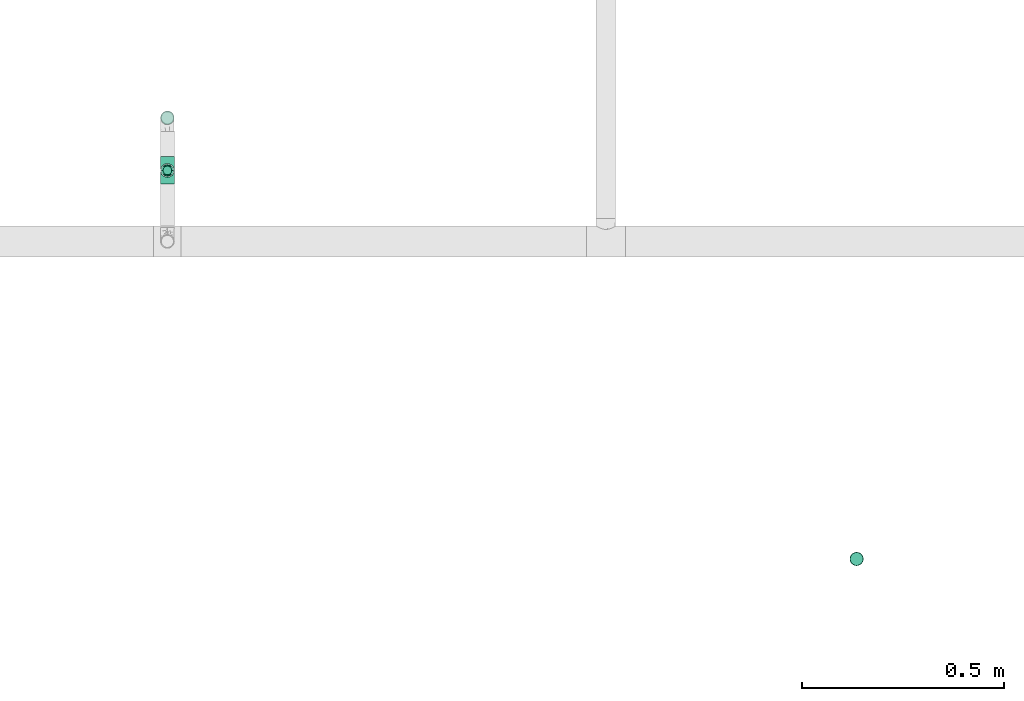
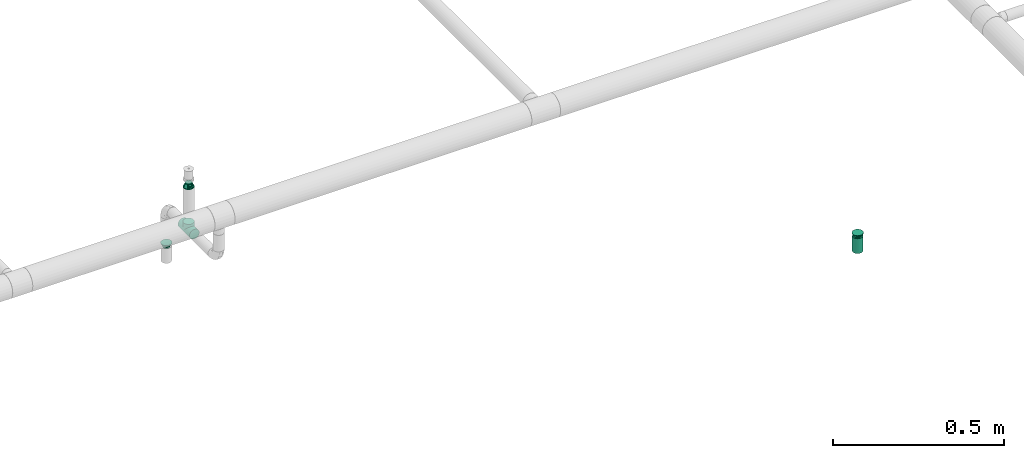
# One storey, part 85 of 157: 4 flow fittings, 1 flow terminal.
"""IFC2X3 building model written with IfcOpenShell, lengths in millimetres."""

from ifc_helpers import new_model, entity, si_unit, converted_unit, derived_unit, direction, frame, origin_with_axes, place, context, subcontext, project, spatial, open_shell, surface_model, source, transform, mapped, type_object, element, save


model = new_model("IFC2X3")

# Units and contexts
model_context = context("Model", 3, precision=0.01, world=frame((0.0, 4.29681676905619e-09, 0.0)), true_north=direction((4.01073788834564e-13, 1.0)))
plan_context = context("Plan", 3, precision=0.01, world=frame((0.0, 4.29681676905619e-09, 0.0)), true_north=direction((4.01073788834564e-13, 1.0)))
body_context = subcontext(model_context, "Body", "Model", "MODEL_VIEW")
ifc_project = project(units=[converted_unit("PLANEANGLEUNIT", "DEGREE", entity("IfcPositiveLengthMeasure", 0.0174532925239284), si_unit("PLANEANGLEUNIT", "RADIAN"), dimensions=[0, 0, 0, 0, 0, 0, 0]), si_unit("AREAUNIT", "SQUARE_METRE"), si_unit("LENGTHUNIT", "METRE", prefix="MILLI"), si_unit("MASSUNIT", "GRAM", prefix="KILO"), si_unit("POWERUNIT", "WATT"), si_unit("PRESSUREUNIT", "PASCAL"), si_unit("FORCEUNIT", "NEWTON", prefix="KILO"), si_unit("ELECTRICCURRENTUNIT", "AMPERE"), si_unit("THERMODYNAMICTEMPERATUREUNIT", "DEGREE_CELSIUS"), si_unit("TIMEUNIT", "SECOND"), si_unit("VOLUMEUNIT", "CUBIC_METRE"), derived_unit("LINEARVELOCITYUNIT", [(si_unit("LENGTHUNIT", "METRE"), 1), (si_unit("TIMEUNIT", "SECOND"), -1)]), derived_unit("VOLUMETRICFLOWRATEUNIT", [(si_unit("VOLUMEUNIT", "CUBIC_METRE"), 1), (si_unit("TIMEUNIT", "SECOND"), -1)]), derived_unit("THERMALTRANSMITTANCEUNIT", [(si_unit("POWERUNIT", "WATT"), 1), (si_unit("THERMODYNAMICTEMPERATUREUNIT", "KELVIN"), -1), (si_unit("AREAUNIT", "SQUARE_METRE"), -1)])], contexts=[model_context, plan_context])

# Site, building, storey
site_placement = place(None, frame((0.0, -4.29681676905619e-09, 0.0), z_axis=(0.0, 0.0, 1.0), x_axis=(1.0, 0.0, 0.0)))
site = spatial("IfcSite", under=ifc_project, at=site_placement, CompositionType="ELEMENT")
building_placement = place(site_placement, frame((0.0, 4.29681676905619e-09, 0.0), z_axis=(0.0, 0.0, 1.0), x_axis=(1.0, 0.0, 0.0)))
building = spatial("IfcBuilding", under=site, at=building_placement, Name="mc-building", CompositionType="ELEMENT")
storey_placement = place(building_placement, frame((0.0, 0.0, 204000.0), z_axis=(0.0, 0.0, 1.0), x_axis=(1.0, 0.0, 0.0)))
storey = spatial("IfcBuildingStorey", under=building, at=storey_placement, Name="Nivå D", CompositionType="ELEMENT", Elevation=204000.0)

# Flow fittings
pipe_fitting_type_1 = type_object("IfcPipeFittingType", Name="magi_pipe_fe_tee_centric_90_NOR", PredefinedType="JUNCTION")
shared_shape_1 = source(origin_with_axes(), body_context, "Body", "SurfaceModel", [
    surface_model("IfcShellBasedSurfaceModel", [(-33.8, 4.37404, -16.32415), (-33.8, 0.0, -16.9), (-33.8, 16.32415, -4.37404), (-33.8, 8.45, -14.63583), (-33.8, 11.9501, -11.9501), (-33.8, 14.63583, -8.45), (-33.8, -16.9, 0.0), (-33.8, -11.9501, -11.9501), (-33.8, -14.63583, -8.45), (-33.8, -8.45, -14.63583), (-33.8, -4.37404, -16.32415), (-33.8, -16.32415, -4.37404), (-33.8, 14.63583, 8.45), (-33.8, 16.32415, 4.37404), (-33.8, -8.45, 14.63583), (-33.8, 8.45, 14.63583), (-33.8, 11.9501, 11.9501), (-33.8, 4.37404, 16.32415), (-33.8, 0.0, 16.9), (-33.8, -11.9501, 11.9501), (-33.8, -14.63583, 8.45), (-33.8, -16.32415, 4.37404), (-33.8, -4.37404, 16.32415), (-33.8, 16.9, 0.0), (33.8, 4.37404, -16.32415), (33.8, -16.9, 0.0), (33.8, 0.0, -16.9), (33.8, 14.63583, -8.45), (33.8, 8.45, -14.63583), (33.8, 16.32415, -4.37404), (33.8, 11.9501, -11.9501), (33.8, -16.32415, 4.37404), (33.8, -8.45, -14.63583), (33.8, -4.37404, -16.32415), (33.8, -11.9501, -11.9501), (33.8, -14.63583, -8.45), (33.8, -16.32415, -4.37404), (33.8, 16.32415, 4.37404), (33.8, 8.45, 14.63583), (33.8, 14.63583, 8.45), (33.8, 11.9501, 11.9501), (33.8, -8.45, 14.63583), (33.8, 4.37404, 16.32415), (33.8, -14.63583, 8.45), (33.8, -11.9501, 11.9501), (33.8, 0.0, 16.9), (33.8, -4.37404, 16.32415), (33.8, 16.9, 0.0), (16.28698, -16.28698, 4.51047), (16.9, -16.9, 0.0), (14.62704, -14.62704, 8.4652), (9.47213, -9.47213, 13.99602), (12.26343, -12.26343, 11.62834), (-16.9, -16.9, 0.0), (-16.28698, -16.28698, 4.51047), (-14.62704, -14.62704, 8.4652), (-12.26343, -12.26343, 11.62834), (-9.47213, -9.47213, 13.99602), (-6.42894, -6.42894, 15.62942), (6.42894, -6.42894, 15.62942), (3.24522, -3.24522, 16.58549), (0.0, 0.0, 16.9), (-3.24522, -3.24522, 16.58549), (3.24522, -3.24522, -16.58549), (0.0, 0.0, -16.9), (-3.24522, -3.24522, -16.58549), (-6.42894, -6.42894, -15.62942), (6.42894, -6.42894, -15.62942), (9.47213, -9.47213, -13.99602), (12.26343, -12.26343, -11.62834), (14.62704, -14.62704, -8.4652), (16.28698, -16.28698, -4.51047), (-9.47213, -9.47213, -13.99602), (-12.26343, -12.26343, -11.62834), (-16.28698, -16.28698, -4.51047), (-14.62704, -14.62704, -8.4652), (4.37404, -25.35, -16.32415), (-16.9, -25.35, 0.0), (0.0, -25.35, -16.9), (14.63583, -25.35, -8.45), (8.45, -25.35, -14.63583), (16.32415, -25.35, -4.37404), (11.9501, -25.35, -11.9501), (-11.9501, -25.35, -11.9501), (-8.45, -25.35, -14.63583), (-4.37404, -25.35, -16.32415), (-14.63583, -25.35, -8.45), (-16.32415, -25.35, -4.37404), (16.9, -25.35, 0.0), (8.45, -25.35, 14.63583), (16.32415, -25.35, 4.37404), (14.63583, -25.35, 8.45), (-8.45, -25.35, 14.63583), (11.9501, -25.35, 11.9501), (4.37404, -25.35, 16.32415), (-16.32415, -25.35, 4.37404), (-11.9501, -25.35, 11.9501), (-14.63583, -25.35, 8.45), (0.0, -25.35, 16.9), (-4.37404, -25.35, 16.32415)], [open_shell([[[0, 1, 2]], [[3, 0, 4]], [[0, 2, 5]], [[4, 0, 5]], [[6, 2, 1]], [[7, 8, 9]], [[1, 10, 9]], [[11, 6, 8]], [[1, 9, 8]], [[1, 8, 6]], [[6, 12, 2]], [[12, 13, 2]], [[14, 12, 6]], [[12, 14, 15]], [[16, 12, 15]], [[17, 15, 18]], [[19, 14, 20]], [[21, 20, 14]], [[22, 18, 14]], [[14, 6, 21]], [[14, 18, 15]], [[23, 2, 13]], [[24, 25, 26]], [[27, 24, 28]], [[27, 29, 24]], [[27, 28, 30]], [[31, 25, 24]], [[26, 32, 33]], [[26, 34, 32]], [[35, 25, 36]], [[35, 34, 26]], [[25, 35, 26]], [[24, 29, 31]], [[29, 37, 38]], [[38, 37, 39]], [[38, 31, 29]], [[38, 39, 40]], [[41, 38, 42]], [[43, 41, 44]], [[41, 43, 31]], [[41, 45, 46]], [[41, 31, 38]], [[42, 45, 41]], [[29, 47, 37]], [[31, 43, 48]], [[25, 31, 49]], [[49, 31, 48]], [[43, 50, 48]], [[44, 41, 51]], [[50, 43, 52]], [[51, 52, 44]], [[52, 43, 44]], [[53, 54, 21]], [[53, 21, 6]], [[21, 54, 20]], [[54, 55, 20]], [[56, 57, 19]], [[19, 20, 56]], [[19, 57, 14]], [[56, 20, 55]], [[14, 57, 58]], [[51, 41, 59]], [[60, 45, 61]], [[59, 46, 60]], [[46, 59, 41]], [[60, 46, 45]], [[61, 45, 42]], [[39, 37, 13]], [[16, 38, 40]], [[12, 40, 39]], [[42, 38, 15]], [[23, 37, 47]], [[62, 61, 18]], [[62, 22, 58]], [[22, 62, 18]], [[58, 22, 14]], [[61, 17, 18]], [[42, 17, 61]], [[15, 17, 42]], [[15, 38, 16]], [[12, 16, 40]], [[13, 12, 39]], [[37, 23, 13]], [[5, 27, 30]], [[23, 47, 29]], [[30, 28, 3]], [[27, 2, 29]], [[26, 33, 63]], [[26, 64, 24]], [[64, 26, 63]], [[28, 24, 0]], [[64, 0, 24]], [[4, 30, 3]], [[2, 27, 5]], [[5, 30, 4]], [[2, 23, 29]], [[65, 66, 10]], [[1, 0, 64]], [[1, 65, 10]], [[66, 9, 10]], [[0, 3, 28]], [[1, 64, 65]], [[63, 33, 67]], [[32, 34, 68]], [[69, 68, 34]], [[35, 70, 69]], [[69, 34, 35]], [[32, 68, 67]], [[36, 25, 49]], [[36, 71, 35]], [[71, 36, 49]], [[35, 71, 70]], [[72, 9, 66]], [[72, 7, 9]], [[7, 72, 73]], [[7, 73, 8]], [[74, 53, 11]], [[75, 74, 8]], [[74, 11, 8]], [[11, 53, 6]], [[75, 8, 73]], [[32, 67, 33]], [[76, 77, 78]], [[79, 76, 80]], [[79, 81, 76]], [[79, 80, 82]], [[77, 76, 81]], [[78, 83, 84]], [[84, 85, 78]], [[86, 77, 87]], [[83, 78, 86]], [[77, 86, 78]], [[81, 88, 77]], [[89, 88, 90]], [[89, 90, 91]], [[92, 77, 89]], [[89, 91, 93]], [[92, 89, 94]], [[95, 96, 97]], [[96, 95, 92]], [[92, 98, 99]], [[95, 77, 92]], [[94, 98, 92]], [[89, 77, 88]], [[77, 95, 53]], [[54, 53, 95]], [[97, 96, 56]], [[96, 92, 57]], [[95, 97, 54]], [[58, 92, 99]], [[55, 54, 97]], [[56, 55, 97]], [[58, 57, 92]], [[98, 61, 62]], [[58, 99, 62]], [[56, 96, 57]], [[62, 99, 98]], [[94, 60, 98]], [[89, 59, 94]], [[91, 90, 48]], [[52, 93, 91]], [[93, 51, 89]], [[49, 90, 88]], [[59, 60, 94]], [[51, 59, 89]], [[49, 48, 90]], [[50, 52, 91]], [[48, 50, 91]], [[51, 93, 52]], [[98, 60, 61]], [[88, 81, 49]], [[71, 49, 81]], [[79, 82, 69]], [[82, 80, 68]], [[81, 79, 71]], [[67, 80, 76]], [[70, 71, 79]], [[69, 70, 79]], [[67, 68, 80]], [[78, 64, 63]], [[67, 76, 63]], [[69, 82, 68]], [[63, 76, 78]], [[85, 65, 78]], [[84, 66, 85]], [[86, 87, 74]], [[86, 73, 83]], [[72, 84, 83]], [[53, 87, 77]], [[66, 65, 85]], [[72, 66, 84]], [[53, 74, 87]], [[75, 73, 86]], [[74, 75, 86]], [[72, 83, 73]], [[78, 65, 64]]])]),
])
flow_fitting_placement = place(storey_placement, frame((521500.0, 416470.0, 2540.0), z_axis=(-1.0, 0.0, 0.0), x_axis=(0.0, 1.0, 0.0)))
element("IfcFlowFitting", 1, at=flow_fitting_placement, inside=storey, type_object=pipe_fitting_type_1, Name="magi_pipe_fe_tee_centric_90_NOR", context=body_context, shape_type="MappedRepresentation", body=[
    mapped(shared_shape_1, transform((0.0, 0.0, 0.0), scale=1.0)),
])
pipe_fitting_type_2 = type_object("IfcPipeFittingType", Name="magi_pipe_fe_reducer_centric_short_NOR", PredefinedType="TRANSITION")
shared_shape_2 = source(origin_with_axes(), body_context, "Body", "SurfaceModel", [
    surface_model("IfcShellBasedSurfaceModel", [(-2.0, -7.56604, -7.56604), (-2.0, -10.33541, -2.76936), (-2.0, -5.35, -9.26647), (-2.0, 5.35, -9.26647), (-2.0, 10.33541, -2.76936), (-2.0, 7.56604, -7.56604), (12.4, 11.9501, 11.9501), (12.4, 0.0, 16.9), (12.4, 11.9501, -11.9501), (12.4, 16.9, 0.0), (0.0, -10.7, 0.0), (0.0, -5.35, 9.26647), (0.0, -5.35, -9.26647), (0.0, 10.7, 0.0), (12.4, 15.66253, -2.98753), (12.4, 8.96258, -13.18758), (0.0, 6.6875, -6.94985), (12.4, -15.66253, -2.98753), (12.4, -16.9, 0.0), (12.4, 5.97505, -14.42505), (0.0, 5.35, -9.26647), (12.4, 14.42505, -5.97505), (0.0, 8.025, -4.63324), (0.0, 9.3625, -2.31662), (0.0, -9.3625, -2.31662), (0.0, -8.025, -4.63324), (12.4, -14.42505, -5.97505), (12.4, 13.18758, -8.96258), (12.4, -13.18758, -8.96258), (12.4, -11.9501, -11.9501), (0.0, -6.6875, -6.94985), (12.4, -8.96258, -13.18758), (12.4, -5.97505, -14.42505), (12.4, -15.66253, 2.98753), (12.4, -8.96258, 13.18758), (0.0, -6.6875, 6.94985), (12.4, -11.9501, 11.9501), (12.4, 15.66253, 2.98753), (12.4, -5.97505, 14.42505), (12.4, -14.42505, 5.97505), (0.0, -8.025, 4.63324), (0.0, -9.3625, 2.31662), (0.0, 9.3625, 2.31662), (0.0, 8.025, 4.63324), (12.4, 14.42505, 5.97505), (12.4, -13.18758, 8.96258), (12.4, 13.18758, 8.96258), (0.0, 6.6875, 6.94985), (12.4, 8.96258, 13.18758), (0.0, 5.35, 9.26647), (12.4, 5.97505, 14.42505), (14.4, 4.37404, -16.32415), (14.4, 8.45, -14.63583), (14.4, 11.9501, -11.9501), (14.4, -8.45, -14.63583), (14.4, 16.32415, -4.37404), (14.4, 16.32415, 4.37404), (14.4, 14.63583, -8.45), (14.4, 0.0, -16.9), (14.4, -4.37404, -16.32415), (14.4, -11.9501, -11.9501), (14.4, -16.32415, -4.37404), (14.4, -14.63583, -8.45), (14.4, -16.32415, 4.37404), (14.4, 16.9, 0.0), (14.4, 14.63583, 8.45), (14.4, 11.9501, 11.9501), (14.4, 4.37404, 16.32415), (14.4, 8.45, 14.63583), (14.4, 0.0, 16.9), (14.4, -14.63583, 8.45), (14.4, -16.9, 0.0), (14.4, -8.45, 14.63583), (14.4, -11.9501, 11.9501), (14.4, -4.37404, 16.32415), (12.4, 4.37404, 16.32415), (12.4, -14.63583, 8.45), (12.4, 16.32415, 4.37404), (12.4, 8.45, 14.63583), (12.4, 14.63583, 8.45), (12.4, -8.45, 14.63583), (12.4, -4.37404, 16.32415), (12.4, -16.32415, 4.37404), (12.4, -16.32415, -4.37404), (12.4, -8.45, -14.63583), (12.4, 16.32415, -4.37404), (12.4, 14.63583, -8.45), (12.4, 8.45, -14.63583), (12.4, 4.37404, -16.32415), (12.4, 0.0, -16.9), (12.4, -14.63583, -8.45), (12.4, -4.37404, -16.32415), (-2.0, 2.76936, 10.33541), (-2.0, 0.0, 10.7), (-2.0, 5.35, 9.26647), (-2.0, 7.56604, 7.56604), (-2.0, 9.26647, 5.35), (-2.0, 10.33541, 2.76936), (-2.0, -10.33541, 2.76936), (-2.0, -2.76936, 10.33541), (-2.0, -7.56604, 7.56604), (-2.0, -5.35, 9.26647), (-2.0, -9.26647, 5.35), (-2.0, -10.7, 0.0), (-2.0, 9.26647, -5.35), (-2.0, 2.76936, -10.33541), (-2.0, -9.26647, -5.35), (-2.0, 0.0, -10.7), (-2.0, -2.76936, -10.33541), (-2.0, 10.7, 0.0), (0.0, 0.0, -10.7), (0.0, 2.76936, -10.33541), (0.0, 10.33541, -2.76936), (0.0, 7.56604, -7.56604), (0.0, -10.33541, -2.76936), (0.0, 9.26647, -5.35), (0.0, 0.0, 10.7), (0.0, -2.76936, -10.33541), (0.0, -7.56604, -7.56604), (0.0, -9.26647, -5.35), (0.0, 10.33541, 2.76936), (0.0, 9.26647, 5.35), (0.0, 7.56604, 7.56604), (0.0, 2.76936, 10.33541), (0.0, -7.56604, 7.56604), (0.0, -10.33541, 2.76936), (0.0, -9.26647, 5.35), (0.0, -2.76936, 10.33541), (0.0, 2.675, -9.26647), (0.0, -2.675, -9.26647), (12.4, 2.98753, -15.66253), (0.0, 0.0, -9.26647), (12.4, -2.98753, -15.66253), (0.0, -2.675, 9.26647), (0.0, 2.675, 9.26647), (12.4, -2.98753, 15.66253), (0.0, 0.0, 9.26647), (12.4, 2.98753, 15.66253)], [open_shell([[[0, 1, 2]], [[3, 4, 5]], [[6, 7, 8]], [[8, 9, 6]], [[10, 11, 12]], [[13, 9, 14]], [[15, 16, 8]], [[17, 18, 10]], [[15, 19, 20]], [[21, 22, 23]], [[24, 25, 26]], [[22, 21, 27]], [[28, 26, 25]], [[29, 30, 31]], [[12, 32, 31]], [[10, 18, 33]], [[34, 35, 36]], [[37, 9, 13]], [[34, 38, 11]], [[39, 40, 41]], [[42, 43, 44]], [[40, 39, 45]], [[46, 44, 43]], [[6, 47, 48]], [[49, 50, 48]], [[51, 52, 53]], [[54, 51, 53]], [[53, 55, 56]], [[55, 53, 57]], [[53, 56, 54]], [[58, 54, 59]], [[58, 51, 54]], [[60, 61, 62]], [[61, 60, 54]], [[54, 63, 61]], [[56, 55, 64]], [[56, 65, 66]], [[56, 66, 67]], [[67, 63, 54]], [[67, 66, 68]], [[63, 67, 69]], [[69, 70, 63]], [[71, 61, 63]], [[70, 72, 73]], [[70, 69, 72]], [[72, 69, 74]], [[54, 56, 67]], [[75, 76, 7]], [[77, 75, 78]], [[6, 79, 77]], [[6, 77, 78]], [[76, 75, 77]], [[80, 76, 36]], [[80, 81, 7]], [[7, 76, 80]], [[82, 76, 77]], [[82, 83, 18]], [[82, 77, 84]], [[77, 85, 8]], [[8, 85, 86]], [[8, 87, 88]], [[84, 77, 8]], [[88, 89, 8]], [[83, 29, 90]], [[29, 83, 84]], [[84, 89, 91]], [[83, 82, 84]], [[8, 89, 84]], [[85, 77, 9]], [[83, 61, 18]], [[90, 62, 83]], [[54, 29, 84]], [[90, 29, 60]], [[59, 84, 91]], [[83, 62, 61]], [[61, 71, 18]], [[59, 54, 84]], [[60, 29, 54]], [[60, 62, 90]], [[58, 59, 91]], [[91, 89, 58]], [[88, 51, 89]], [[87, 52, 88]], [[57, 8, 86]], [[87, 8, 53]], [[55, 86, 85]], [[87, 53, 52]], [[52, 51, 88]], [[64, 55, 85]], [[57, 86, 55]], [[57, 53, 8]], [[9, 64, 85]], [[89, 51, 58]], [[77, 56, 9]], [[79, 65, 77]], [[68, 6, 78]], [[79, 6, 66]], [[67, 78, 75]], [[77, 65, 56]], [[56, 64, 9]], [[67, 68, 78]], [[66, 6, 68]], [[66, 65, 79]], [[69, 67, 75]], [[75, 7, 69]], [[81, 74, 7]], [[80, 72, 81]], [[70, 36, 76]], [[80, 36, 73]], [[63, 76, 82]], [[80, 73, 72]], [[72, 74, 81]], [[71, 63, 82]], [[70, 76, 63]], [[70, 73, 36]], [[18, 71, 82]], [[7, 74, 69]], [[92, 1, 93]], [[94, 1, 92]], [[95, 96, 97]], [[95, 97, 94]], [[98, 93, 1]], [[99, 100, 101]], [[99, 93, 100]], [[100, 98, 102]], [[93, 98, 100]], [[98, 1, 103]], [[94, 97, 1]], [[1, 97, 4]], [[5, 4, 104]], [[4, 3, 1]], [[105, 1, 3]], [[1, 0, 106]], [[2, 107, 108]], [[2, 1, 105]], [[105, 107, 2]], [[4, 97, 109]], [[20, 110, 111]], [[112, 20, 113]], [[114, 20, 112]], [[112, 113, 115]], [[116, 114, 112]], [[110, 12, 117]], [[110, 20, 12]], [[118, 114, 119]], [[114, 118, 12]], [[20, 114, 12]], [[112, 13, 120]], [[120, 121, 122]], [[120, 122, 123]], [[116, 112, 123]], [[123, 122, 49]], [[116, 124, 114]], [[125, 124, 126]], [[10, 114, 125]], [[124, 127, 11]], [[125, 114, 124]], [[127, 124, 116]], [[123, 112, 120]], [[1, 114, 103]], [[106, 119, 1]], [[12, 0, 2]], [[106, 0, 118]], [[117, 2, 108]], [[1, 119, 114]], [[114, 10, 103]], [[117, 12, 2]], [[118, 0, 12]], [[118, 119, 106]], [[110, 117, 108]], [[108, 107, 110]], [[105, 111, 107]], [[3, 20, 105]], [[115, 5, 104]], [[3, 5, 113]], [[112, 104, 4]], [[3, 113, 20]], [[20, 111, 105]], [[13, 112, 4]], [[115, 104, 112]], [[115, 113, 5]], [[109, 13, 4]], [[107, 111, 110]], [[97, 120, 109]], [[96, 121, 97]], [[49, 95, 94]], [[96, 95, 122]], [[123, 94, 92]], [[97, 121, 120]], [[120, 13, 109]], [[123, 49, 94]], [[122, 95, 49]], [[122, 121, 96]], [[116, 123, 92]], [[92, 93, 116]], [[99, 127, 93]], [[101, 11, 99]], [[126, 100, 102]], [[101, 100, 124]], [[125, 102, 98]], [[101, 124, 11]], [[11, 127, 99]], [[10, 125, 98]], [[126, 102, 125]], [[126, 124, 100]], [[103, 10, 98]], [[93, 127, 116]], [[18, 7, 36]], [[18, 29, 8]], [[89, 8, 29]], [[18, 8, 7]], [[13, 11, 49]], [[13, 20, 12]], [[13, 12, 11]], [[24, 26, 17]], [[10, 24, 17]], [[16, 15, 20]], [[30, 12, 31]], [[23, 14, 21]], [[19, 128, 20]], [[27, 8, 16]], [[32, 12, 129]], [[30, 28, 25]], [[130, 131, 128]], [[129, 132, 32]], [[16, 22, 27]], [[13, 14, 23]], [[128, 19, 130]], [[130, 89, 131]], [[131, 132, 129]], [[89, 132, 131]], [[28, 30, 29]], [[42, 44, 37]], [[13, 42, 37]], [[35, 34, 11]], [[47, 49, 48]], [[41, 33, 39]], [[38, 133, 11]], [[45, 36, 35]], [[50, 49, 134]], [[47, 46, 43]], [[135, 136, 133]], [[134, 137, 50]], [[35, 40, 45]], [[10, 33, 41]], [[133, 38, 135]], [[135, 7, 136]], [[136, 137, 134]], [[7, 137, 136]], [[46, 47, 6]]])]),
])
for number, where, z_axis, x_axis, name in (
    (2, (521500.0, 416600.0, 2396.95199999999), (0.0, -1.0, 0.0), (0.0, 0.0, 1.0), "magi_pipe_fe_reducer_centric_short_NOR"),
    (3, (521500.0, 416470.0, 2703.04800000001), (0.0, 1.0, 0.0), (0.0, 0.0, -1.0), "magi_pipe_fe_reducer_centric_short_NOR"),
    (4, (523202.56398, 415510.15307, 2496.95199999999), (0.0, -1.0, 0.0), (0.0, 0.0, 1.0), "magi_pipe_fe_reducer_centric_short_NOR"),
):
    element("IfcFlowFitting", number, at=place(storey_placement, frame(where, z_axis=z_axis, x_axis=x_axis)), inside=storey, type_object=pipe_fitting_type_2, Name=name, context=body_context, shape_type="MappedRepresentation", body=[
        mapped(shared_shape_2, transform((0.0, 0.0, 0.0), scale=1.0)),
    ])

# Flow terminal
fire_suppression_terminal_type = type_object("IfcFireSuppressionTerminalType", Name="SP-15-K80-68DGR-STD-HIMLING", PredefinedType="NOTDEFINED")
shared_shape_3 = source(origin_with_axes(), body_context, "Body", "SurfaceModel", [
    surface_model("IfcShellBasedSurfaceModel", [(4.1411, -15.45481, 53.0), (8.0, -13.85641, 53.0), (11.31371, -11.31371, 53.0), (-8.0, -13.85641, 53.0), (15.45481, -4.1411, 53.0), (16.0, 0.0, 53.0), (13.85641, -8.0, 53.0), (0.0, -16.0, 53.0), (-4.1411, -15.45481, 53.0), (-13.85641, -8.0, 53.0), (-11.31371, -11.31371, 53.0), (-15.45481, -4.1411, 53.0), (15.45481, 4.1411, 53.0), (13.85641, 8.0, 53.0), (11.31371, 11.31371, 53.0), (-4.1411, 15.45481, 53.0), (8.0, 13.85641, 53.0), (4.1411, 15.45481, 53.0), (0.0, 16.0, 53.0), (-13.85641, 8.0, 53.0), (-15.45481, 4.1411, 53.0), (-16.0, 0.0, 53.0), (-11.31371, 11.31371, 53.0), (-8.0, 13.85641, 53.0), (0.0, 16.0, 0.0), (4.1411, 15.45481, 0.0), (8.0, 13.85641, 0.0), (-4.1411, 15.45481, 0.0), (11.31371, 11.31371, 0.0), (13.85641, 8.0, 0.0), (15.45481, 4.1411, 0.0), (-15.45481, -4.1411, 0.0), (-11.31371, 11.31371, 0.0), (-8.0, 13.85641, 0.0), (-13.85641, 8.0, 0.0), (-15.45481, 4.1411, 0.0), (-16.0, 0.0, 0.0), (4.1411, -15.45481, 0.0), (16.0, 0.0, 0.0), (15.45481, -4.1411, 0.0), (13.85641, -8.0, 0.0), (11.31371, -11.31371, 0.0), (8.0, -13.85641, 0.0), (-8.0, -13.85641, 0.0), (-13.85641, -8.0, 0.0), (-11.31371, -11.31371, 0.0), (0.0, -16.0, 0.0), (-4.1411, -15.45481, 0.0)], [open_shell([[[0, 1, 2]], [[3, 0, 2]], [[4, 5, 2]], [[4, 2, 6]], [[3, 2, 5]], [[7, 3, 8]], [[7, 0, 3]], [[3, 9, 10]], [[9, 3, 11]], [[5, 11, 3]], [[5, 12, 11]], [[12, 13, 14]], [[15, 12, 14]], [[16, 17, 18]], [[14, 16, 15]], [[18, 15, 16]], [[11, 19, 20]], [[21, 11, 20]], [[22, 15, 23]], [[15, 22, 19]], [[19, 11, 15]], [[11, 12, 15]], [[24, 25, 26]], [[27, 24, 26]], [[28, 29, 30]], [[27, 26, 28]], [[27, 28, 31]], [[27, 32, 33]], [[32, 27, 34]], [[34, 31, 35]], [[31, 34, 27]], [[35, 31, 36]], [[28, 30, 31]], [[37, 38, 39]], [[37, 39, 40]], [[41, 42, 37]], [[41, 37, 40]], [[38, 37, 43]], [[44, 43, 45]], [[43, 44, 31]], [[43, 46, 47]], [[43, 31, 38]], [[37, 46, 43]], [[38, 31, 30]], [[11, 31, 44]], [[45, 9, 44]], [[3, 43, 47]], [[45, 43, 10]], [[8, 47, 46]], [[31, 21, 36]], [[31, 11, 21]], [[44, 9, 11]], [[45, 10, 9]], [[3, 10, 43]], [[47, 8, 3]], [[46, 7, 8]], [[0, 37, 42]], [[41, 1, 42]], [[6, 40, 39]], [[41, 40, 2]], [[4, 39, 38]], [[37, 0, 7]], [[42, 1, 0]], [[41, 2, 1]], [[40, 6, 2]], [[4, 6, 39]], [[38, 5, 4]], [[37, 7, 46]], [[12, 38, 30]], [[13, 30, 29]], [[16, 26, 25]], [[17, 25, 24]], [[30, 13, 12]], [[12, 5, 38]], [[28, 14, 13]], [[28, 26, 14]], [[14, 26, 16]], [[25, 17, 16]], [[28, 13, 29]], [[24, 18, 17]], [[15, 27, 33]], [[32, 23, 33]], [[19, 34, 35]], [[32, 34, 22]], [[20, 35, 36]], [[27, 15, 18]], [[33, 23, 15]], [[32, 22, 23]], [[34, 19, 22]], [[20, 19, 35]], [[36, 21, 20]], [[27, 18, 24]]])]),
])
flow_terminal_placement = place(storey_placement, frame((523202.56398, 415510.15307, 2500.0), z_axis=(0.0, 0.0, -1.0), x_axis=(1.0, 0.0, 0.0)))
element("IfcFlowTerminal", 5, at=flow_terminal_placement, inside=storey, type_object=fire_suppression_terminal_type, Name="SP-15-K80-68DGR-STD-HIMLING", context=body_context, shape_type="MappedRepresentation", body=[
    mapped(shared_shape_3, transform((0.0, 0.0, 0.0), scale=1.0)),
])

save(model, "model.ifc")
